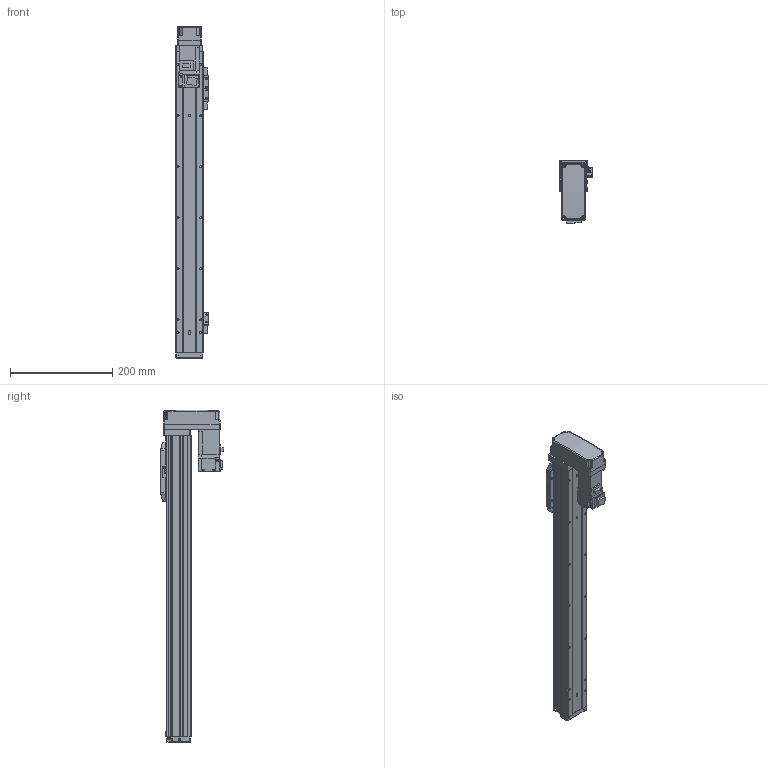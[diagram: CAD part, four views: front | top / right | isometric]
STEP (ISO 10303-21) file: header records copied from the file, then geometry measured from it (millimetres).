
FILE_DESCRIPTION (( 'STEP AP214' ), '1' );
FILE_NAME ('N_GRH5-450-BM-M10.step', '2025-03-14T10:50:55', ( '' ), ( '' ), 'SwSTEP 2.0', 'SolidWorks 2016', '' );
FILE_SCHEMA (( 'AUTOMOTIVE_DESIGN' ));
Length unit declared in the file: millimetre
Products named in the file (5): N_GRH5-GY-004^N_GRH5-450-BM-M10; N_GRH5-GY-011^N_GRH5-450-BM-M10; HF-KP13_100W_Motor^N_GRH5-450-BM-M10; N_GRH5-BL-008^N_GRH5-450-BM-M10; N_GRH5-450-BM-M10
Assembly tree (4 placements, depth 2):
  N_GRH5-450-BM-M10
    N_GRH5-GY-011^N_GRH5-450-BM-M10
    N_GRH5-GY-004^N_GRH5-450-BM-M10
    HF-KP13_100W_Motor^N_GRH5-450-BM-M10
    N_GRH5-BL-008^N_GRH5-450-BM-M10
Bounding box: 64.05 x 123.7 x 650.5 mm (x, y, z)
Volume: 1312570.5 mm3; surface area: 326396.8 mm2
Topology: 4 solids, 5 shells, 954 faces, 2432 edges, 1541 vertices
Faces by surface type: plane 551, cylinder 328, cone 50, bspline 15, sphere 10
Entity records: 36291 total; most frequent: CARTESIAN_POINT 5693, DIRECTION 4925, ORIENTED_EDGE 4800, EDGE_CURVE 2400, LINE 1651, VECTOR 1651, AXIS2_PLACEMENT_3D 1637, VERTEX_POINT 1539
